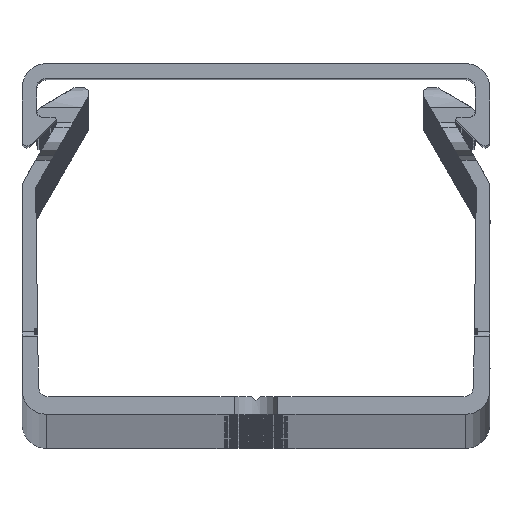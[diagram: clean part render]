
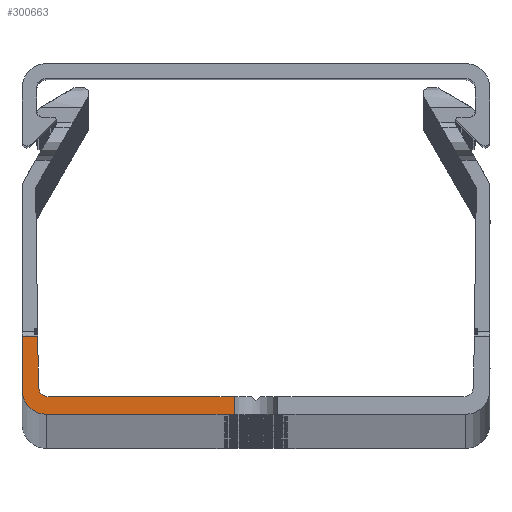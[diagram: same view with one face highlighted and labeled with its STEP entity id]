
A CAD part, top view. The second image highlights one B-rep face of the part: STEP entity #300663.
In plain terms, the highlighted planar face has unit normal (0, 0, 1).
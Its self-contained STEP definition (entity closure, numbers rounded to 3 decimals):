
#10608 = CARTESIAN_POINT ( 'NONE',  ( -21.5, 0., 1000. ) ) ;
#14246 = DIRECTION ( 'NONE',  ( 0., 0., -1. ) ) ;
#19018 = DIRECTION ( 'NONE',  ( 0., 0., 1. ) ) ;
#24682 = LINE ( 'NONE', #123678, #309773 ) ;
#35459 = CARTESIAN_POINT ( 'NONE',  ( -2.25, 0., 1000. ) ) ;
#41517 = DIRECTION ( 'NONE',  ( -0.014, 1., 0. ) ) ;
#43347 = CIRCLE ( 'NONE', #184637, 1. ) ;
#44196 = VECTOR ( 'NONE', #235575, 1000. ) ;
#45840 = ORIENTED_EDGE ( 'NONE', *, *, #251733, .T. ) ;
#63060 = AXIS2_PLACEMENT_3D ( 'NONE', #71169, #99755, #298959 ) ;
#63397 = EDGE_CURVE ( 'NONE', #303759, #208096, #207872, .T. ) ;
#67961 = CARTESIAN_POINT ( 'NONE',  ( -22.314, 2.786, 1000. ) ) ;
#71169 = CARTESIAN_POINT ( 'NONE',  ( 17.57, 33., 1000. ) ) ;
#71870 = CARTESIAN_POINT ( 'NONE',  ( -2.25, 1.8, 1000. ) ) ;
#71892 = EDGE_CURVE ( 'NONE', #331725, #180769, #96048, .T. ) ;
#79806 = CARTESIAN_POINT ( 'NONE',  ( -21.5, 0., 1000. ) ) ;
#85324 = ORIENTED_EDGE ( 'NONE', *, *, #353103, .T. ) ;
#96048 = LINE ( 'NONE', #154859, #314294 ) ;
#99755 = DIRECTION ( 'NONE',  ( 0., 0., 1. ) ) ;
#119765 = LINE ( 'NONE', #348847, #44196 ) ;
#122932 = DIRECTION ( 'NONE',  ( 1., 0., 0. ) ) ;
#123678 = CARTESIAN_POINT ( 'NONE',  ( -24., 2.5, 1000. ) ) ;
#129547 = AXIS2_PLACEMENT_3D ( 'NONE', #189506, #19018, #218087 ) ;
#137898 = CARTESIAN_POINT ( 'NONE',  ( -22.387, 8., 1000. ) ) ;
#154859 = CARTESIAN_POINT ( 'NONE',  ( -2.25, 33., 1000. ) ) ;
#155476 = LINE ( 'NONE', #353893, #364718 ) ;
#161236 = CARTESIAN_POINT ( 'NONE',  ( -24., 2.5, 1000. ) ) ;
#165878 = EDGE_CURVE ( 'NONE', #180769, #203271, #119765, .T. ) ;
#168191 = LINE ( 'NONE', #79806, #226023 ) ;
#174312 = FACE_OUTER_BOUND ( 'NONE', #205848, .T. ) ;
#176110 = VERTEX_POINT ( 'NONE', #67961 ) ;
#178463 = DIRECTION ( 'NONE',  ( 0., -1., 0. ) ) ;
#180769 = VERTEX_POINT ( 'NONE', #71870 ) ;
#182256 = DIRECTION ( 'NONE',  ( 0., 1., 0. ) ) ;
#183139 = ORIENTED_EDGE ( 'NONE', *, *, #307027, .T. ) ;
#184637 = AXIS2_PLACEMENT_3D ( 'NONE', #184734, #14246, #213344 ) ;
#184734 = CARTESIAN_POINT ( 'NONE',  ( -21.314, 2.8, 1000. ) ) ;
#189506 = CARTESIAN_POINT ( 'NONE',  ( -21.5, 2.5, 1000. ) ) ;
#203271 = VERTEX_POINT ( 'NONE', #265799 ) ;
#205848 = EDGE_LOOP ( 'NONE', ( #45840, #247719, #261901, #253895, #85324, #260364, #332718, #183139 ) ) ;
#207872 = LINE ( 'NONE', #265057, #274806 ) ;
#208096 = VERTEX_POINT ( 'NONE', #137898 ) ;
#213313 = CARTESIAN_POINT ( 'NONE',  ( -24., 8., 1000. ) ) ;
#213344 = DIRECTION ( 'NONE',  ( 1., 0., 0. ) ) ;
#214958 = EDGE_CURVE ( 'NONE', #303759, #283446, #24682, .T. ) ;
#218087 = DIRECTION ( 'NONE',  ( -1., 0., 0. ) ) ;
#226023 = VECTOR ( 'NONE', #363515, 1000. ) ;
#235575 = DIRECTION ( 'NONE',  ( -1., 0., 0. ) ) ;
#241653 = PLANE ( 'NONE',  #63060 ) ;
#247719 = ORIENTED_EDGE ( 'NONE', *, *, #71892, .T. ) ;
#251733 = EDGE_CURVE ( 'NONE', #319822, #331725, #168191, .T. ) ;
#253895 = ORIENTED_EDGE ( 'NONE', *, *, #346546, .T. ) ;
#260364 = ORIENTED_EDGE ( 'NONE', *, *, #63397, .F. ) ;
#261901 = ORIENTED_EDGE ( 'NONE', *, *, #165878, .T. ) ;
#265057 = CARTESIAN_POINT ( 'NONE',  ( 17.57, 8., 1000. ) ) ;
#265799 = CARTESIAN_POINT ( 'NONE',  ( -21.314, 1.8, 1000. ) ) ;
#270040 = CIRCLE ( 'NONE', #129547, 2.5 ) ;
#274806 = VECTOR ( 'NONE', #122932, 1000. ) ;
#283446 = VERTEX_POINT ( 'NONE', #161236 ) ;
#298959 = DIRECTION ( 'NONE',  ( 1., 0., 0. ) ) ;
#300663 = ADVANCED_FACE ( 'NONE', ( #174312 ), #241653, .T. ) ;
#303759 = VERTEX_POINT ( 'NONE', #213313 ) ;
#307027 = EDGE_CURVE ( 'NONE', #283446, #319822, #270040, .T. ) ;
#309773 = VECTOR ( 'NONE', #178463, 1000. ) ;
#314294 = VECTOR ( 'NONE', #182256, 1000. ) ;
#319822 = VERTEX_POINT ( 'NONE', #10608 ) ;
#331725 = VERTEX_POINT ( 'NONE', #35459 ) ;
#332718 = ORIENTED_EDGE ( 'NONE', *, *, #214958, .T. ) ;
#346546 = EDGE_CURVE ( 'NONE', #203271, #176110, #43347, .T. ) ;
#348847 = CARTESIAN_POINT ( 'NONE',  ( -0.4, 1.8, 1000. ) ) ;
#353103 = EDGE_CURVE ( 'NONE', #176110, #208096, #155476, .T. ) ;
#353893 = CARTESIAN_POINT ( 'NONE',  ( -22.389, 8.2, 1000. ) ) ;
#363515 = DIRECTION ( 'NONE',  ( 1., 0., 0. ) ) ;
#364718 = VECTOR ( 'NONE', #41517, 1000. ) ;
